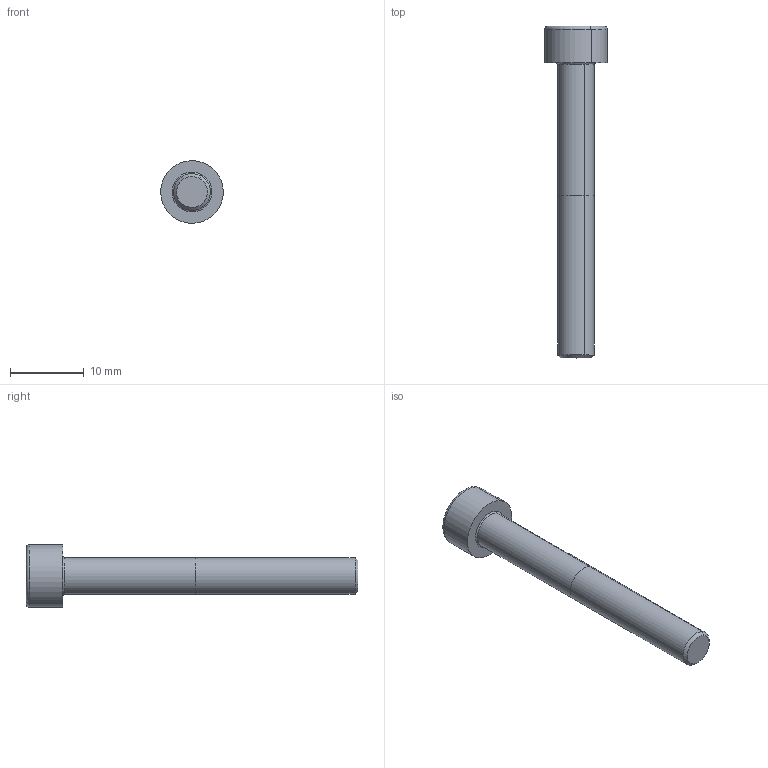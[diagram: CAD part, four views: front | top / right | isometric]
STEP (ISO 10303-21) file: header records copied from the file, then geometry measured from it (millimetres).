
FILE_DESCRIPTION(('3DEXPERIENCE STEP','CAx-IF Rec.Pracs.--- Model Styling and Organization---1.5--- 2016-08-15','CAx-IF Rec.Pracs.---Supplemental Geometry---1.0---2011-11-01','CAx-IF Rec.Pracs.--- Composite Materials ---3.4---2017-06-13','CAx-IF Rec.Pracs.---Tessellated 3D Geometry---1.0---2015-12-17'),'2;1');
FILE_NAME('\\?\D:\School\CarTech\CTU.25\Tutorials\Model\OEM\Bolt_M5x40.stp','2024-09-26T02:46:31+00:00',('none'),('none'),'3DEXPERIENCE Platform3DEXPERIENCE R2024x HotFix 4.24','3DEXPERIENCE Platform STEP AP242 v3','none');
FILE_SCHEMA(('AP242_MANAGED_MODEL_BASED_3D_ENGINEERING_MIM_LF {1 0 10303 442 1 1 4}'));
Length unit declared in the file: millimetre
Products named in the file (1): Screw_ISO_4762_M5x40
Bounding box: 8.5 x 45 x 8.5 mm (x, y, z)
Volume: 1032 mm3; surface area: 898.9 mm2
Topology: 1 solids, 1 shells, 22 faces, 46 edges, 28 vertices
Faces by surface type: plane 10, cylinder 6, torus 4, cone 2
Entity records: 565 total; most frequent: CARTESIAN_POINT 93, ORIENTED_EDGE 92, DIRECTION 82, EDGE_CURVE 46, AXIS2_PLACEMENT_3D 39, VERTEX_POINT 28, VECTOR 26, LINE 26
